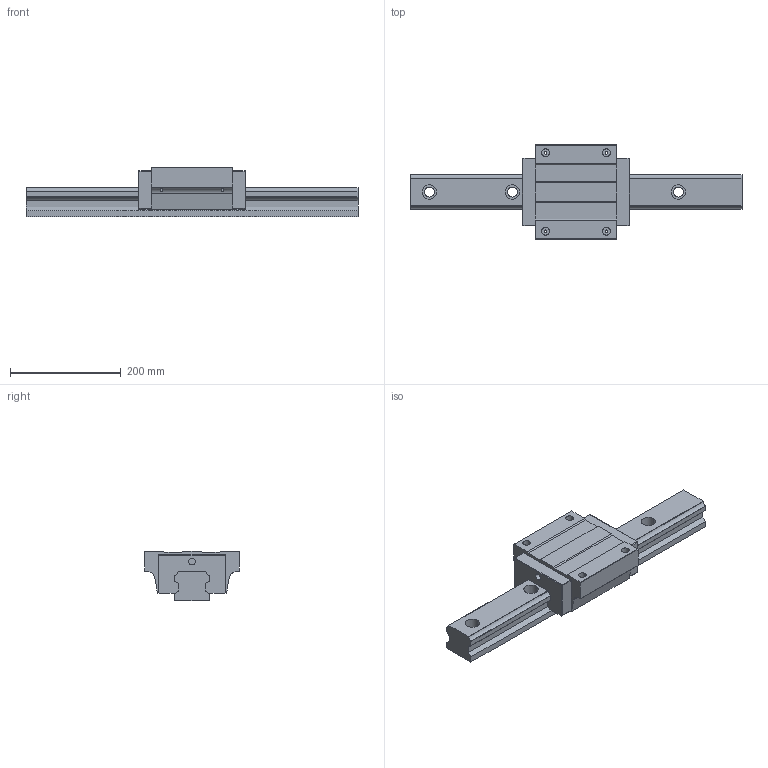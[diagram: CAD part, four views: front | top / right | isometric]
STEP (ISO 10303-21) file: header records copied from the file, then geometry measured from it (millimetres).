
FILE_DESCRIPTION (( 'STEP AP203' ), '1' );
FILE_NAME ('TRH65FL-XNC.STEP', '2024-08-16T06:09:40', ( '' ), ( '' ), 'SwSTEP 2.0', 'SolidWorks 2021', '' );
FILE_SCHEMA (( 'CONFIG_CONTROL_DESIGN' ));
Length unit declared in the file: millimetre
Products named in the file (1): TRH65FL-XNC
Bounding box: 600 x 170 x 90 mm (x, y, z)
Volume: 3224459.7 mm3; surface area: 280667.2 mm2
Topology: 1 solids, 1 shells, 168 faces, 466 edges, 304 vertices
Faces by surface type: cylinder 84, plane 80, sphere 4
Entity records: 5885 total; most frequent: CARTESIAN_POINT 1371, DIRECTION 942, ORIENTED_EDGE 924, EDGE_CURVE 462, AXIS2_PLACEMENT_3D 325, VERTEX_POINT 304, LINE 292, VECTOR 292
